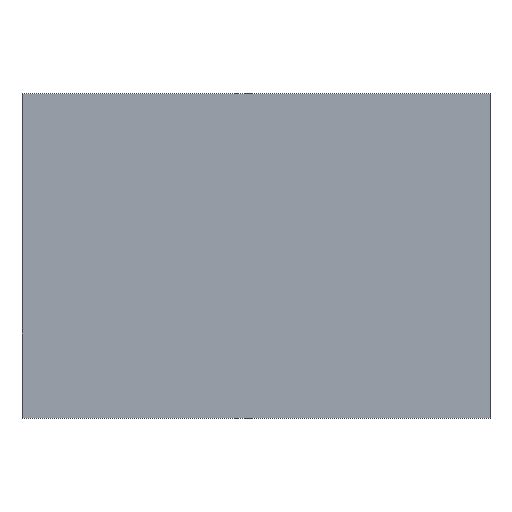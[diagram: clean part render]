
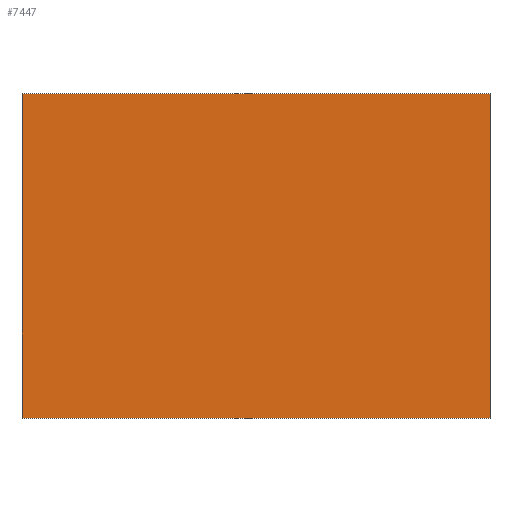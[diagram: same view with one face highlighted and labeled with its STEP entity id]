
A CAD part, top view. The second image highlights one B-rep face of the part: STEP entity #7447.
In plain terms, the highlighted planar face has unit normal (0, 0, 1).
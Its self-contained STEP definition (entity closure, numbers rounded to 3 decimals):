
#4337=VECTOR($,#8294,1.);
#4338=VECTOR($,#8295,1.);
#4339=VECTOR($,#8296,1.);
#4340=VECTOR($,#8297,1.);
#5132=LINE($,#9759,#4337);
#5133=LINE($,#9762,#4338);
#5134=LINE($,#9764,#4339);
#5135=LINE($,#9766,#4340);
#5422=VERTEX_POINT($,#9760);
#5423=VERTEX_POINT($,#9761);
#5424=VERTEX_POINT($,#9763);
#5425=VERTEX_POINT($,#9765);
#6020=EDGE_CURVE($,#5422,#5423,#5132,.T.);
#6021=EDGE_CURVE($,#5423,#5424,#5133,.T.);
#6022=EDGE_CURVE($,#5424,#5425,#5134,.T.);
#6023=EDGE_CURVE($,#5425,#5422,#5135,.T.);
#6774=ORIENTED_EDGE($,*,*,#6020,.T.);
#6775=ORIENTED_EDGE($,*,*,#6021,.T.);
#6776=ORIENTED_EDGE($,*,*,#6022,.T.);
#6777=ORIENTED_EDGE($,*,*,#6023,.T.);
#7088=EDGE_LOOP($,(#6774,#6775,#6776,#6777));
#7296=FACE_BOUND($,#7088,.T.);
#7447=ADVANCED_FACE($,(#7296),#7524,.T.);
#7524=PLANE($,#10527);
#8293=DIRECTION($,(0.,0.,1.));
#8294=DIRECTION($,(0.,1.,0.));
#8295=DIRECTION($,(-1.,0.,0.));
#8296=DIRECTION($,(0.,-1.,0.));
#8297=DIRECTION($,(1.,0.,0.));
#9758=CARTESIAN_POINT($,(0.,0.,25.3));
#9759=CARTESIAN_POINT($,(130.3,0.,25.3));
#9760=CARTESIAN_POINT($,(130.3,-90.3,25.3));
#9761=CARTESIAN_POINT($,(130.3,90.3,25.3));
#9762=CARTESIAN_POINT($,(0.,90.3,25.3));
#9763=CARTESIAN_POINT($,(-130.3,90.3,25.3));
#9764=CARTESIAN_POINT($,(-130.3,0.,25.3));
#9765=CARTESIAN_POINT($,(-130.3,-90.3,25.3));
#9766=CARTESIAN_POINT($,(0.,-90.3,25.3));
#10527=AXIS2_PLACEMENT_3D($,#9758,#8293,$);
